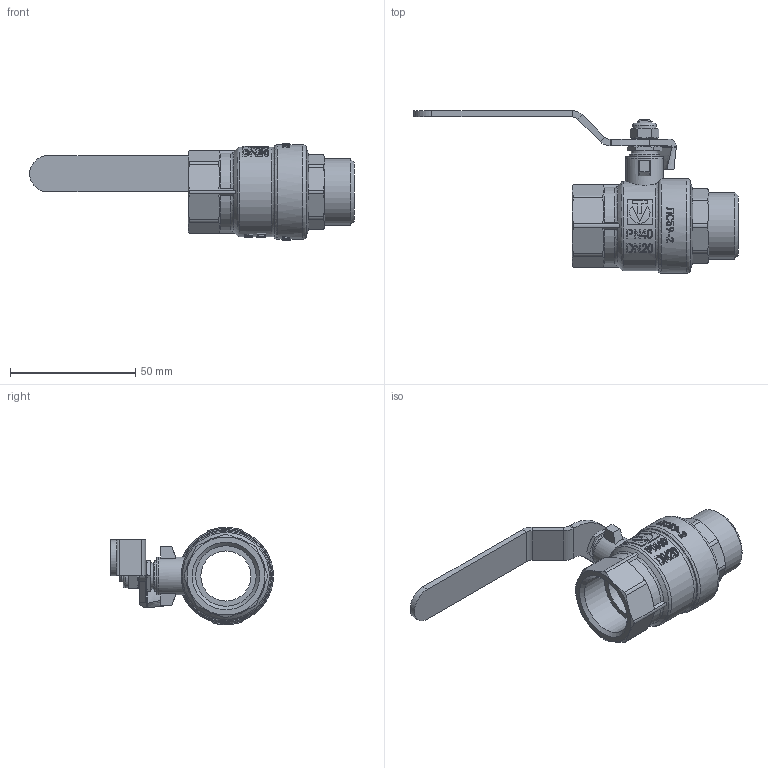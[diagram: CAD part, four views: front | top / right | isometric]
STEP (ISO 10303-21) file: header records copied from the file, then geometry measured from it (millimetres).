
FILE_DESCRIPTION(('STEP AP203'), '1');
FILE_NAME('VT.215S.N.05', '', ('UNSPECIFIED'), ('UNSPECIFIED'), 'C3D Converter', 'C3D Toolkit', '');
FILE_SCHEMA(('CONFIG_CONTROL_DESIGN'));
Length unit declared in the file: millimetre
Products named in the file (1): ВР.491816.013.000-01
Bounding box: 129.42 x 64.83 x 38.8 mm (x, y, z)
Volume: 40413.1 mm3; surface area: 17743.2 mm2
Topology: 1 solids, 1 shells, 1529 faces, 4337 edges, 2861 vertices
Faces by surface type: plane 1360, cylinder 105, cone 50, torus 10, bspline 4
Full cylindrical faces by diameter (mm): 8 x1, 9.5 x1, 10.5 x1, 12 x1, 15 x1, 20 x1, 24.118 x1, 26.441 x1, 35.6 x1, 37.8 x1
Entity records: 52589 total; most frequent: CARTESIAN_POINT 19484, ORIENTED_EDGE 8602, DIRECTION 5374, EDGE_CURVE 4301, VERTEX_POINT 2854, AXIS2_PLACEMENT_3D 1866, LINE 1642, VECTOR 1642
